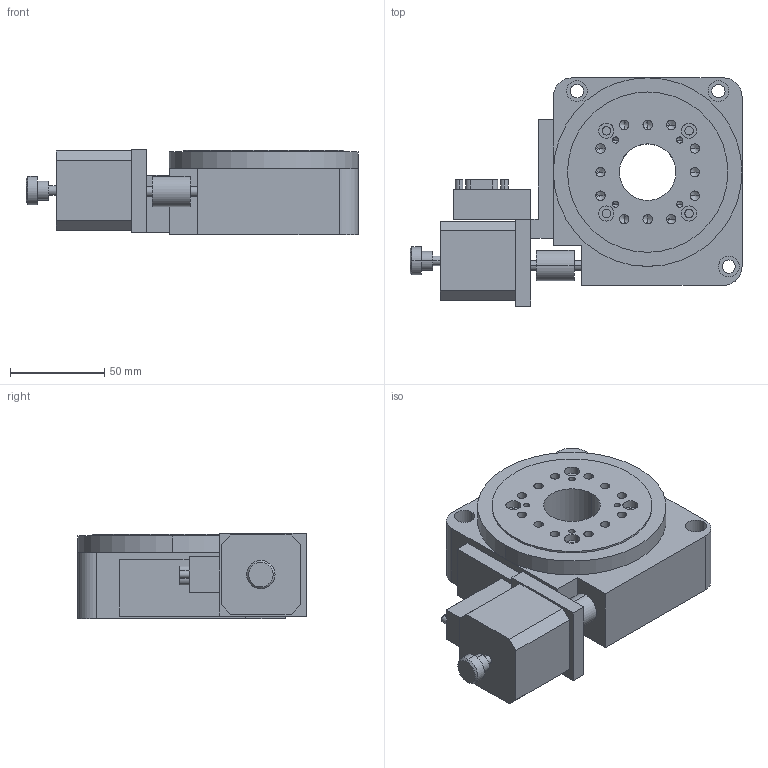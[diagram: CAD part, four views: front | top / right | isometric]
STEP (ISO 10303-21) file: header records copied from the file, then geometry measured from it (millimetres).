
FILE_DESCRIPTION (( 'STEP AP214' ), '1' );
FILE_NAME ('PX110-100.STEP', '2022-09-17T08:30:45', ( '' ), ( '' ), 'SwSTEP 2.0', 'SolidWorks 2017', '' );
FILE_SCHEMA (( 'AUTOMOTIVE_DESIGN' ));
Length unit declared in the file: millimetre
Products named in the file (1): PX110-100
Bounding box: 176 x 121 x 45.5 mm (x, y, z)
Volume: 517846.9 mm3; surface area: 69619.8 mm2
Topology: 1 solids, 1 shells, 401 faces, 1027 edges, 651 vertices
Faces by surface type: plane 176, cylinder 107, bspline 76, cone 42
Entity records: 15076 total; most frequent: CARTESIAN_POINT 5732, ORIENTED_EDGE 1974, DIRECTION 1712, EDGE_CURVE 987, VERTEX_POINT 651, LINE 610, VECTOR 610, AXIS2_PLACEMENT_3D 551
